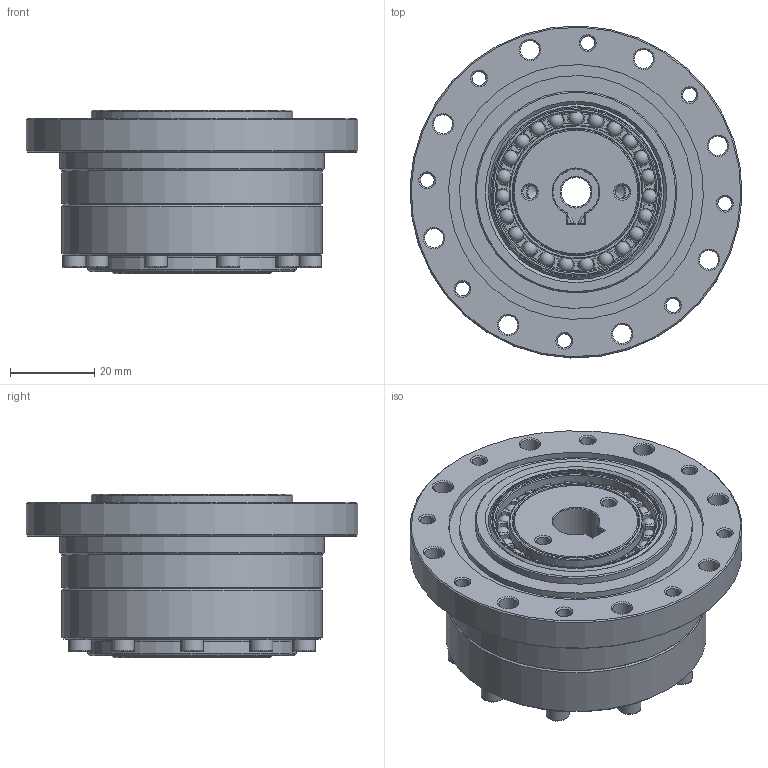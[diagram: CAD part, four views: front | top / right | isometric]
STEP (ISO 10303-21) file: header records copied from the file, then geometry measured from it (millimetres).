
FILE_DESCRIPTION(/* description */ (''),/* implementation_level */ '2;1');
FILE_NAME(/* name */ 'LSG-17-XX-U-I-DL-φ11.stp',/* time_stamp */ '2023-06-30T11:12:17+08:00',/* author */ (''),/* organization */ (''),/* preprocessor_version */ 'ST-DEVELOPER v16.7',/* originating_system */ 'SIEMENS PLM Software NX 12.0',/* authorisation */ '');
FILE_SCHEMA (('AUTOMOTIVE_DESIGN { 1 0 10303 214 3 1 1 1 }'));
Length unit declared in the file: millimetre
Products named in the file (14): EB304006-17KE-01; EB304006-17KC-46; TC-38x47x4; 发生器LSS-17-DL-φ11; O-45x1; GB-T70.1-2000,M3x16; GB-T70.1-2000,M5x16; 销子3x10; 柔轮垫块LSS-17; 柔轮LSS-17; 刚轮LSS-17; EB304006-17KE; 交叉轴承LSS-17; LSG-17-XX-U-I-DL-φ11
Assembly tree (29 placements, depth 3):
  LSG-17-XX-U-I-DL-φ11
    交叉轴承LSS-17
      TC-38x47x4
    刚轮LSS-17
    柔轮LSS-17
    柔轮垫块LSS-17
    EB304006-17KE
      EB304006-17KC-46
      EB304006-17KE-01
    销子3x10  x3
    GB-T70.1-2000,M5x16  x6
    GB-T70.1-2000,M3x16  x10
    O-45x1
    发生器LSS-17-DL-φ11
Bounding box: 78.95 x 78.95 x 39 mm (x, y, z)
Volume: 89513 mm3; surface area: 62806.9 mm2
Topology: 53 solids, 53 shells, 983 faces, 2168 edges, 1281 vertices
Faces by surface type: plane 344, cone 305, cylinder 198, torus 112, sphere 23, revolution 1
Full cylindrical faces by diameter (mm): 2.5 x10, 2.874 x10, 3 x9, 3.3 x10, 3.5 x10, 4.2 x12, 4.5 x8, 4.826 x6, 5.5 x22, 7 x1, 8.5 x6, 10 x3, 16 x1, 26 x1, 29 x2, 30 x2, 31.88 x2, 33 x1, 33.8 x1, 34 x1, 36 x1, 37.3 x1, 37.9 x1, 38 x2, 38.16 x2, 40 x2, 40.58 x1, 41.545 x1, 41.703 x1, 42 x2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
Entity records: 16795 total; most frequent: CARTESIAN_POINT 3893, DIRECTION 2784, ORIENTED_EDGE 1910, AXIS2_PLACEMENT_3D 1318, EDGE_LOOP 1065, EDGE_CURVE 955, FACE_BOUND 910, VERTEX_POINT 804
